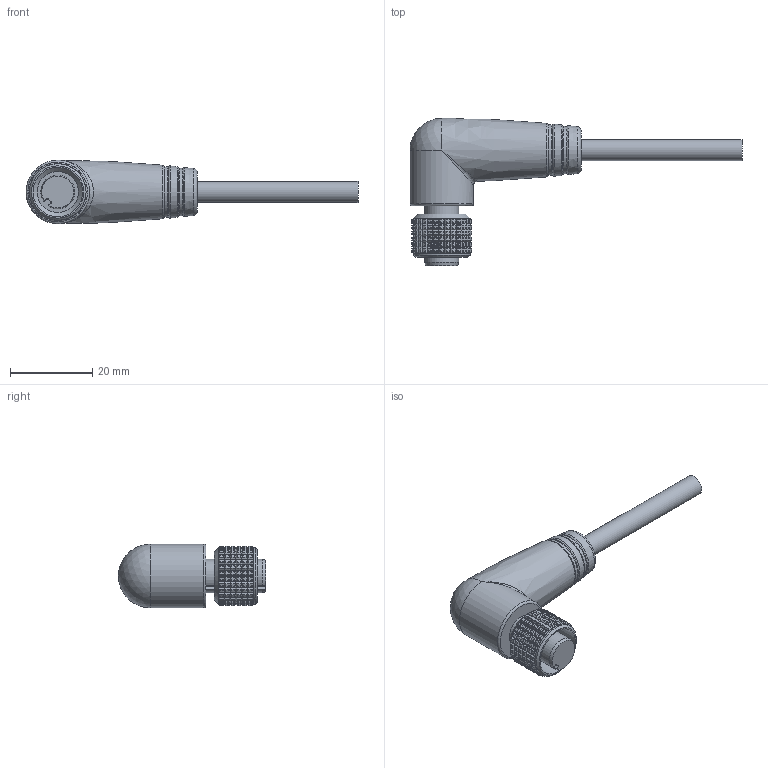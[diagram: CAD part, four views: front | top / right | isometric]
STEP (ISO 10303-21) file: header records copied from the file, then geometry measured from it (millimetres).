
FILE_DESCRIPTION((''),'2;1');
FILE_NAME('C:\Users\enrico\Desktop\Ale\Sito Web Mintec\AUTOMAZIONE_2020\FOTO & STEP Connettori BUS & PROFIBUS\DEVICENET code A_FE_ANG.stp','2020-09-22T12:27:32',('Tecnico2'),(''),'Autodesk Inventor 2012','Autodesk Inventor 2012','');
FILE_SCHEMA(('AUTOMOTIVE_DESIGN { 1 0 10303 214 1 1 1 1 }'));
Length unit declared in the file: millimetre
Products named in the file (3): M12 code A_FE_ANG_DEVICENET; Corpo M12 code A FE ANG devicenet; ghiera M12 code B_FE_NON TECNICO_
Assembly tree (2 placements, depth 2):
  M12 code A_FE_ANG_DEVICENET
    Corpo M12 code A FE ANG devicenet
    ghiera M12 code B_FE_NON TECNICO_
Bounding box: 80.5 x 35.7 x 15.4 mm (x, y, z)
Volume: 9572.4 mm3; surface area: 4514.1 mm2
Topology: 3 solids, 3 shells, 3287 faces, 7331 edges, 4079 vertices
Faces by surface type: cylinder 1452, plane 1090, sphere 721, torus 12, bspline 8, cone 4
Full cylindrical faces by diameter (mm): 5.1 x1, 12 x1, 13.7 x1, 15.4 x1
Entity records: 89625 total; most frequent: DIRECTION 17323, CARTESIAN_POINT 15092, ORIENTED_EDGE 14606, EDGE_CURVE 7303, AXIS2_PLACEMENT_3D 6748, VERTEX_POINT 4075, VECTOR 3827, LINE 3827
